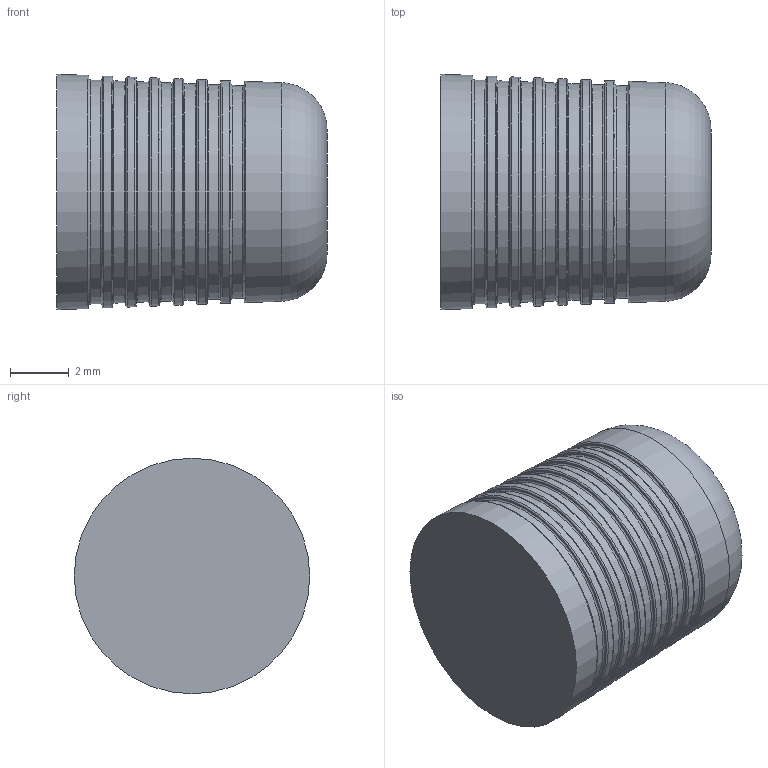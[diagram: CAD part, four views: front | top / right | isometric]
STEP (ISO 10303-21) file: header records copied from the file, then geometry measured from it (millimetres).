
FILE_DESCRIPTION(/* description */ ('LEE BETAPLUG, 6000 SERIES, 8mm'),/* implementation_level */ '2;1');
FILE_NAME(/* name */ '\\ABSOLUTE\SmWork\Vernon\PLBA0803604S.stp',/* time_stamp */ '2021-03-23T14:06:58-04:00',/* author */ ('VernonJ'),/* organization */ (''),/* preprocessor_version */ 'ST-DEVELOPER v18',/* originating_system */ 'Autodesk Inventor 2020',/* authorisation */ '');
FILE_SCHEMA (('AUTOMOTIVE_DESIGN { 1 0 10303 214 3 1 1 }'));
Length unit declared in the file: millimetre
Products named in the file (1): PLBA0803604S
Bounding box: 9.22 x 8.04 x 8.04 mm (x, y, z)
Volume: 406.6 mm3; surface area: 333.9 mm2
Topology: 1 solids, 1 shells, 60 faces, 233 edges, 175 vertices
Faces by surface type: torus 29, cone 29, plane 2
Entity records: 2714 total; most frequent: DIRECTION 559, CARTESIAN_POINT 469, ORIENTED_EDGE 466, AXIS2_PLACEMENT_3D 265, EDGE_CURVE 233, CIRCLE 204, VERTEX_POINT 175, FACE_OUTER_BOUND 60
